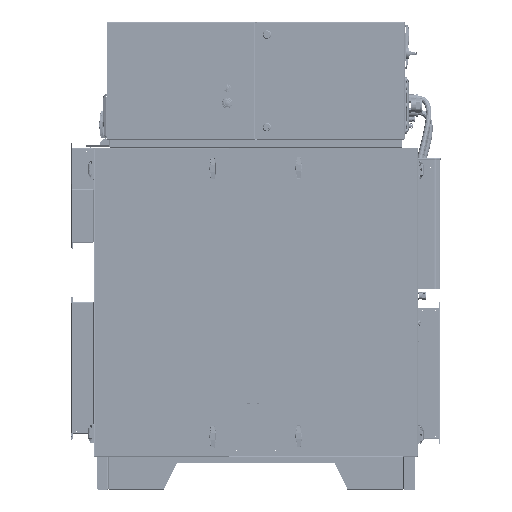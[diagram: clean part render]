
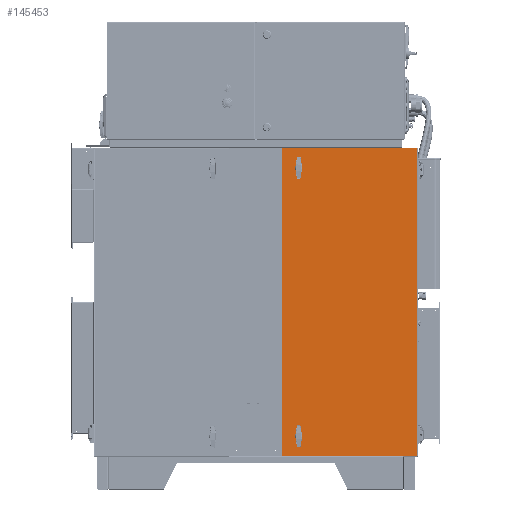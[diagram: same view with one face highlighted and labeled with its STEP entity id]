
A CAD part, top view. The second image highlights one B-rep face of the part: STEP entity #145453.
In plain terms, the highlighted planar face has unit normal (0, 0, 1).
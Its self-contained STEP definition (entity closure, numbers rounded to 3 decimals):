
#2764 = VERTEX_POINT ( 'NONE', #40002 ) ;
#5769 = PLANE ( 'NONE',  #56046 ) ;
#5970 = EDGE_CURVE ( 'NONE', #227878, #235850, #208740, .T. ) ;
#6974 = AXIS2_PLACEMENT_3D ( 'NONE', #113373, #177877, #176540 ) ;
#9887 = ORIENTED_EDGE ( 'NONE', *, *, #227015, .F. ) ;
#10578 = VERTEX_POINT ( 'NONE', #88779 ) ;
#13322 = ORIENTED_EDGE ( 'NONE', *, *, #99742, .T. ) ;
#16655 = LINE ( 'NONE', #245161, #42534 ) ;
#17108 = EDGE_CURVE ( 'NONE', #235850, #95079, #16655, .T. ) ;
#19371 = VERTEX_POINT ( 'NONE', #223323 ) ;
#23943 = DIRECTION ( 'NONE',  ( 0., -1., 0. ) ) ;
#26068 = CARTESIAN_POINT ( 'NONE',  ( -299.589, -482.088, 294.371 ) ) ;
#32332 = EDGE_CURVE ( 'NONE', #227878, #211533, #53168, .T. ) ;
#38463 = CARTESIAN_POINT ( 'NONE',  ( -245.336, -411.088, 294.371 ) ) ;
#40002 = CARTESIAN_POINT ( 'NONE',  ( 216.911, -482.088, 294.371 ) ) ;
#40183 = DIRECTION ( 'NONE',  ( 0., -1., 0. ) ) ;
#41965 = DIRECTION ( 'NONE',  ( 0., -1., 0. ) ) ;
#42534 = VECTOR ( 'NONE', #59635, 1000. ) ;
#42647 = CARTESIAN_POINT ( 'NONE',  ( -224.842, 613.912, 294.371 ) ) ;
#44971 = DIRECTION ( 'NONE',  ( 0., 0., 1. ) ) ;
#48204 = VECTOR ( 'NONE', #23943, 1000. ) ;
#51428 = FACE_BOUND ( 'NONE', #193512, .T. ) ;
#53168 = LINE ( 'NONE', #198381, #151946 ) ;
#56046 = AXIS2_PLACEMENT_3D ( 'NONE', #91781, #71617, #68965 ) ;
#58903 = EDGE_LOOP ( 'NONE', ( #126986, #223479, #177312, #9887 ) ) ;
#59635 = DIRECTION ( 'NONE',  ( 0., 1., 0. ) ) ;
#68965 = DIRECTION ( 'NONE',  ( 0., 1., 0. ) ) ;
#71617 = DIRECTION ( 'NONE',  ( 0., 0., -1. ) ) ;
#77349 = DIRECTION ( 'NONE',  ( 0., 1., 0. ) ) ;
#84055 = DIRECTION ( 'NONE',  ( 0., -1., 0. ) ) ;
#85292 = CARTESIAN_POINT ( 'NONE',  ( -299.589, 692.912, 294.371 ) ) ;
#88243 = CARTESIAN_POINT ( 'NONE',  ( -224.842, -403.088, 294.371 ) ) ;
#88779 = CARTESIAN_POINT ( 'NONE',  ( -298.089, 692.912, 294.371 ) ) ;
#88918 = CARTESIAN_POINT ( 'NONE',  ( -235.089, -407.088, 294.371 ) ) ;
#90112 = AXIS2_PLACEMENT_3D ( 'NONE', #88918, #226202, #41965 ) ;
#91109 = AXIS2_PLACEMENT_3D ( 'NONE', #176646, #254679, #177985 ) ;
#91781 = CARTESIAN_POINT ( 'NONE',  ( -299.589, 692.912, 294.371 ) ) ;
#92737 = ORIENTED_EDGE ( 'NONE', *, *, #32332, .T. ) ;
#94459 = ORIENTED_EDGE ( 'NONE', *, *, #5970, .F. ) ;
#95079 = VERTEX_POINT ( 'NONE', #88243 ) ;
#95738 = CARTESIAN_POINT ( 'NONE',  ( 216.911, 692.912, 294.371 ) ) ;
#99018 = CIRCLE ( 'NONE', #137784, 11. ) ;
#99742 = EDGE_CURVE ( 'NONE', #193517, #2764, #208969, .T. ) ;
#100339 = VECTOR ( 'NONE', #147951, 1000. ) ;
#111624 = CIRCLE ( 'NONE', #90112, 11. ) ;
#112317 = VERTEX_POINT ( 'NONE', #95738 ) ;
#113373 = CARTESIAN_POINT ( 'NONE',  ( -235.089, -407.088, 294.371 ) ) ;
#118992 = EDGE_CURVE ( 'NONE', #112317, #2764, #184093, .T. ) ;
#121576 = CARTESIAN_POINT ( 'NONE',  ( -245.336, -403.088, 294.371 ) ) ;
#126986 = ORIENTED_EDGE ( 'NONE', *, *, #232596, .T. ) ;
#128150 = FACE_OUTER_BOUND ( 'NONE', #229389, .T. ) ;
#129589 = DIRECTION ( 'NONE',  ( 1., 0., 0. ) ) ;
#130166 = VECTOR ( 'NONE', #40183, 1000. ) ;
#132121 = DIRECTION ( 'NONE',  ( 0., 1., 0. ) ) ;
#137784 = AXIS2_PLACEMENT_3D ( 'NONE', #187556, #44971, #84055 ) ;
#138646 = ORIENTED_EDGE ( 'NONE', *, *, #217943, .T. ) ;
#140369 = CARTESIAN_POINT ( 'NONE',  ( -245.336, 621.912, 294.371 ) ) ;
#143689 = CARTESIAN_POINT ( 'NONE',  ( -298.089, 692.912, 294.371 ) ) ;
#144251 = VERTEX_POINT ( 'NONE', #140369 ) ;
#145303 = CARTESIAN_POINT ( 'NONE',  ( -245.336, 613.912, 294.371 ) ) ;
#145324 = ORIENTED_EDGE ( 'NONE', *, *, #17108, .F. ) ;
#145453 = ADVANCED_FACE ( 'NONE', ( #128150, #51428, #230351 ), #5769, .F. ) ;
#147951 = DIRECTION ( 'NONE',  ( 0., 1., 0. ) ) ;
#148853 = EDGE_CURVE ( 'NONE', #150986, #194946, #150961, .T. ) ;
#150961 = LINE ( 'NONE', #153640, #245463 ) ;
#150986 = VERTEX_POINT ( 'NONE', #42647 ) ;
#151205 = CIRCLE ( 'NONE', #91109, 11. ) ;
#151946 = VECTOR ( 'NONE', #77349, 1000. ) ;
#153640 = CARTESIAN_POINT ( 'NONE',  ( -224.842, 613.912, 294.371 ) ) ;
#156746 = CARTESIAN_POINT ( 'NONE',  ( -224.842, -411.088, 294.371 ) ) ;
#161210 = VECTOR ( 'NONE', #249315, 1000. ) ;
#176540 = DIRECTION ( 'NONE',  ( 0., -1., 0. ) ) ;
#176646 = CARTESIAN_POINT ( 'NONE',  ( -235.089, 617.912, 294.371 ) ) ;
#177312 = ORIENTED_EDGE ( 'NONE', *, *, #148853, .F. ) ;
#177877 = DIRECTION ( 'NONE',  ( 0., 0., 1. ) ) ;
#177985 = DIRECTION ( 'NONE',  ( 0., -1., 0. ) ) ;
#182766 = CARTESIAN_POINT ( 'NONE',  ( 216.911, 692.912, 294.371 ) ) ;
#183824 = CARTESIAN_POINT ( 'NONE',  ( -298.089, -482.088, 294.371 ) ) ;
#184093 = LINE ( 'NONE', #182766, #130166 ) ;
#184328 = EDGE_CURVE ( 'NONE', #194946, #144251, #151205, .T. ) ;
#187556 = CARTESIAN_POINT ( 'NONE',  ( -235.089, 617.912, 294.371 ) ) ;
#188596 = EDGE_CURVE ( 'NONE', #10578, #112317, #245367, .T. ) ;
#193512 = EDGE_LOOP ( 'NONE', ( #207604, #145324, #94459, #92737 ) ) ;
#193517 = VERTEX_POINT ( 'NONE', #183824 ) ;
#194946 = VERTEX_POINT ( 'NONE', #210295 ) ;
#196354 = ORIENTED_EDGE ( 'NONE', *, *, #188596, .F. ) ;
#198381 = CARTESIAN_POINT ( 'NONE',  ( -245.336, -411.088, 294.371 ) ) ;
#206840 = LINE ( 'NONE', #143689, #48204 ) ;
#207140 = LINE ( 'NONE', #145303, #100339 ) ;
#207604 = ORIENTED_EDGE ( 'NONE', *, *, #212784, .F. ) ;
#208740 = CIRCLE ( 'NONE', #6974, 11. ) ;
#208969 = LINE ( 'NONE', #26068, #215504 ) ;
#210295 = CARTESIAN_POINT ( 'NONE',  ( -224.842, 621.912, 294.371 ) ) ;
#211533 = VERTEX_POINT ( 'NONE', #121576 ) ;
#212784 = EDGE_CURVE ( 'NONE', #95079, #211533, #111624, .T. ) ;
#215504 = VECTOR ( 'NONE', #129589, 1000. ) ;
#217943 = EDGE_CURVE ( 'NONE', #10578, #193517, #206840, .T. ) ;
#223323 = CARTESIAN_POINT ( 'NONE',  ( -245.336, 613.912, 294.371 ) ) ;
#223479 = ORIENTED_EDGE ( 'NONE', *, *, #184328, .F. ) ;
#226202 = DIRECTION ( 'NONE',  ( 0., 0., 1. ) ) ;
#227015 = EDGE_CURVE ( 'NONE', #19371, #150986, #99018, .T. ) ;
#227878 = VERTEX_POINT ( 'NONE', #38463 ) ;
#229389 = EDGE_LOOP ( 'NONE', ( #13322, #247548, #196354, #138646 ) ) ;
#230351 = FACE_BOUND ( 'NONE', #58903, .T. ) ;
#232596 = EDGE_CURVE ( 'NONE', #19371, #144251, #207140, .T. ) ;
#235850 = VERTEX_POINT ( 'NONE', #156746 ) ;
#245161 = CARTESIAN_POINT ( 'NONE',  ( -224.842, -411.088, 294.371 ) ) ;
#245367 = LINE ( 'NONE', #85292, #161210 ) ;
#245463 = VECTOR ( 'NONE', #132121, 1000. ) ;
#247548 = ORIENTED_EDGE ( 'NONE', *, *, #118992, .F. ) ;
#249315 = DIRECTION ( 'NONE',  ( 1., 0., 0. ) ) ;
#254679 = DIRECTION ( 'NONE',  ( 0., 0., 1. ) ) ;
